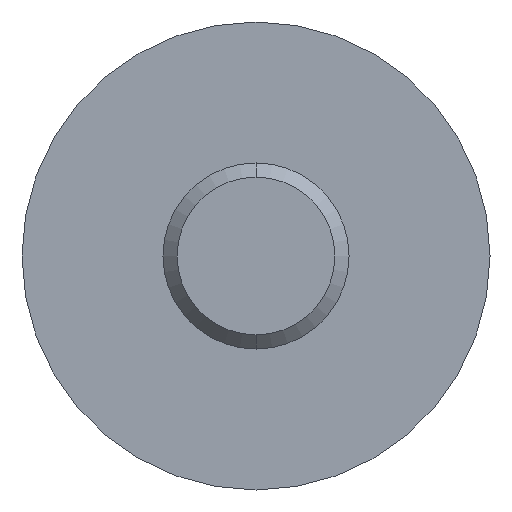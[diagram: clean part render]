
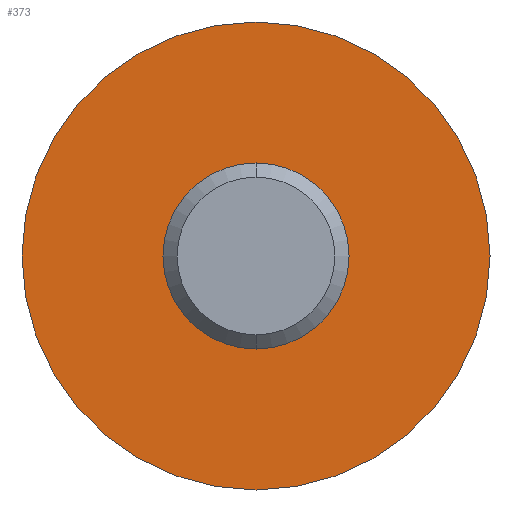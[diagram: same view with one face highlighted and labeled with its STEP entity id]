
A CAD part, front view. The second image highlights one B-rep face of the part: STEP entity #373.
In plain terms, the highlighted planar face has unit normal (0, -1, 0).
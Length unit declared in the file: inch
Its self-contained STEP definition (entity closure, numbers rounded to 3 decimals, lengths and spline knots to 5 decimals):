
#14 = PLANE ( 'NONE',  #614 ) ;
#47 = CARTESIAN_POINT ( 'NONE',  ( 0., 0., 0. ) ) ;
#55 = DIRECTION ( 'NONE',  ( 0., 0., 1. ) ) ;
#61 = DIRECTION ( 'NONE',  ( 0., -1., 0. ) ) ;
#62 = AXIS2_PLACEMENT_3D ( 'NONE', #153, #319, #55 ) ;
#72 = CARTESIAN_POINT ( 'NONE',  ( 0., 0., 0.495 ) ) ;
#73 = ORIENTED_EDGE ( 'NONE', *, *, #260, .F. ) ;
#85 = CIRCLE ( 'NONE', #656, 0.19685 ) ;
#100 = EDGE_CURVE ( 'NONE', #323, #659, #369, .T. ) ;
#108 = DIRECTION ( 'NONE',  ( 0., 0., 1. ) ) ;
#109 = EDGE_LOOP ( 'NONE', ( #542, #73 ) ) ;
#142 = CARTESIAN_POINT ( 'NONE',  ( 0., 0., 0. ) ) ;
#153 = CARTESIAN_POINT ( 'NONE',  ( 0., 0., 0. ) ) ;
#167 = DIRECTION ( 'NONE',  ( 0., 1., 0. ) ) ;
#186 = EDGE_LOOP ( 'NONE', ( #604, #336 ) ) ;
#195 = DIRECTION ( 'NONE',  ( 0., -1., 0. ) ) ;
#237 = CIRCLE ( 'NONE', #62, 0.495 ) ;
#260 = EDGE_CURVE ( 'NONE', #291, #298, #518, .T. ) ;
#265 = DIRECTION ( 'NONE',  ( 0., 0., 1. ) ) ;
#277 = CARTESIAN_POINT ( 'NONE',  ( 0., 0., -0.19685 ) ) ;
#284 = EDGE_CURVE ( 'NONE', #659, #323, #237, .T. ) ;
#291 = VERTEX_POINT ( 'NONE', #277 ) ;
#295 = FACE_OUTER_BOUND ( 'NONE', #186, .T. ) ;
#298 = VERTEX_POINT ( 'NONE', #529 ) ;
#319 = DIRECTION ( 'NONE',  ( 0., 1., 0. ) ) ;
#323 = VERTEX_POINT ( 'NONE', #72 ) ;
#336 = ORIENTED_EDGE ( 'NONE', *, *, #100, .F. ) ;
#369 = CIRCLE ( 'NONE', #459, 0.495 ) ;
#373 = ADVANCED_FACE ( 'NONE', ( #590, #295 ), #14, .F. ) ;
#433 = CARTESIAN_POINT ( 'NONE',  ( 0., 0., 0. ) ) ;
#453 = DIRECTION ( 'NONE',  ( 0., 0., 1. ) ) ;
#459 = AXIS2_PLACEMENT_3D ( 'NONE', #47, #573, #265 ) ;
#518 = CIRCLE ( 'NONE', #625, 0.19685 ) ;
#529 = CARTESIAN_POINT ( 'NONE',  ( 0., 0., 0.19685 ) ) ;
#542 = ORIENTED_EDGE ( 'NONE', *, *, #564, .F. ) ;
#564 = EDGE_CURVE ( 'NONE', #298, #291, #85, .T. ) ;
#573 = DIRECTION ( 'NONE',  ( 0., 1., 0. ) ) ;
#590 = FACE_BOUND ( 'NONE', #109, .T. ) ;
#604 = ORIENTED_EDGE ( 'NONE', *, *, #284, .F. ) ;
#614 = AXIS2_PLACEMENT_3D ( 'NONE', #433, #167, #638 ) ;
#625 = AXIS2_PLACEMENT_3D ( 'NONE', #629, #61, #108 ) ;
#629 = CARTESIAN_POINT ( 'NONE',  ( 0., 0., 0. ) ) ;
#638 = DIRECTION ( 'NONE',  ( 0., 0., 1. ) ) ;
#656 = AXIS2_PLACEMENT_3D ( 'NONE', #142, #195, #453 ) ;
#659 = VERTEX_POINT ( 'NONE', #660 ) ;
#660 = CARTESIAN_POINT ( 'NONE',  ( 0., 0., -0.495 ) ) ;
